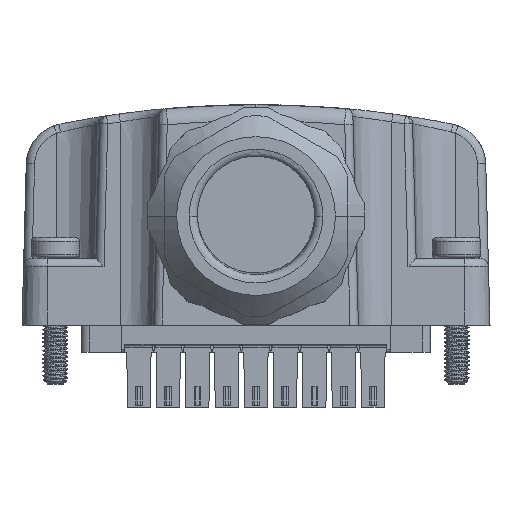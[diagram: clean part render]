
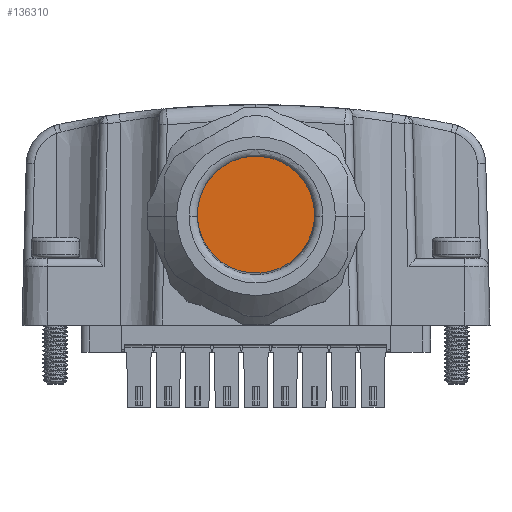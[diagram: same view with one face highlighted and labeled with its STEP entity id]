
A CAD part, top view. The second image highlights one B-rep face of the part: STEP entity #136310.
In plain terms, the highlighted planar face has unit normal (0, 0, 1).
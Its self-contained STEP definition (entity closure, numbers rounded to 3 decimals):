
#132565=CARTESIAN_POINT('',(0.,32.2,271.471));
#132566=DIRECTION('',(0.,0.,1.));
#132567=DIRECTION('',(-0.698,0.716,0.));
#132568=AXIS2_PLACEMENT_3D('',#132565,#132566,#132567);
#132570=CARTESIAN_POINT('',(0.,32.2,271.471));
#132571=DIRECTION('',(0.,0.,1.));
#132572=DIRECTION('',(0.698,-0.716,0.));
#132573=AXIS2_PLACEMENT_3D('',#132570,#132571,#132572);
#132633=CARTESIAN_POINT('',(-4.885,37.214,
271.471));
#132634=VERTEX_POINT('',#132633);
#133031=CARTESIAN_POINT('',(4.885,27.186,
271.471));
#133032=VERTEX_POINT('',#133031);
#136301=CARTESIAN_POINT('',(0.,32.2,271.471));
#136302=DIRECTION('',(0.,0.,-1.));
#136303=DIRECTION('',(-0.698,0.716,0.));
#136304=AXIS2_PLACEMENT_3D('',#136301,#136302,#136303);
#136305=PLANE('',#136304);
#136306=ORIENTED_EDGE('',*,*,#136278,.F.);
#136307=ORIENTED_EDGE('',*,*,#136295,.F.);
#136308=EDGE_LOOP('',(#136306,#136307));
#136309=FACE_OUTER_BOUND('',#136308,.F.);
#136310=ADVANCED_FACE('',(#136309),#136305,.F.);
#132569=CIRCLE('',#132568,7.);
#132574=CIRCLE('',#132573,7.);
#136278=EDGE_CURVE('',#132634,#133032,#132569,.T.);
#136295=EDGE_CURVE('',#133032,#132634,#132574,.T.);
